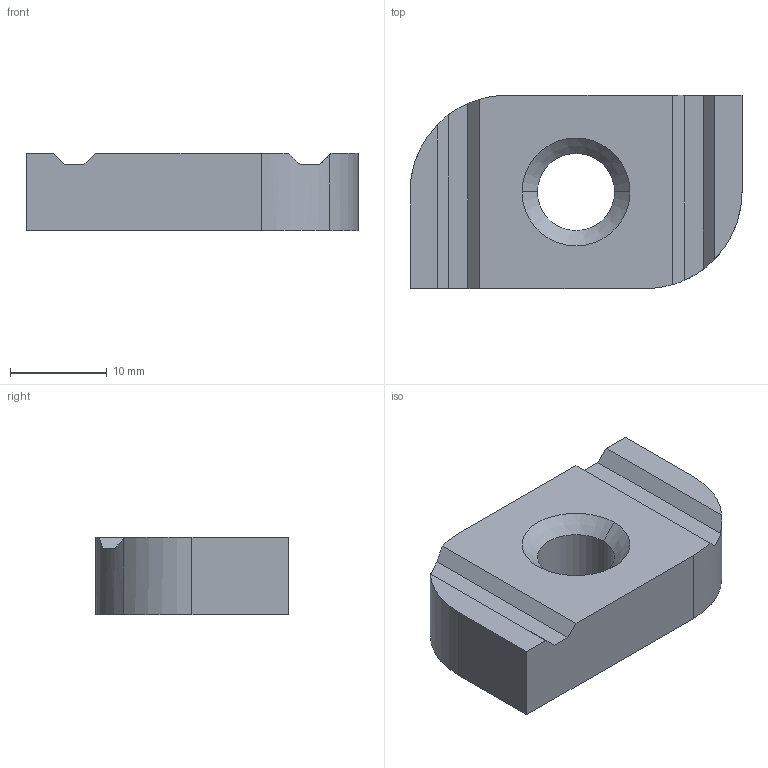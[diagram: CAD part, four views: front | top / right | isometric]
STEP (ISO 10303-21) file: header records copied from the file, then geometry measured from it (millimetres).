
FILE_DESCRIPTION(('TurboCAD Mac Pro'),'Build 980');
FILE_NAME('P3007.stp',' ',(''),(''),'ACIS Interop','IMSI','TurboCAD Mac Pro BY IMSI, INCORPORATED');
FILE_SCHEMA(('automotive_design'));
Length unit declared in the file: inch
Products named in the file (1): 1
Bounding box: 34.4 x 20 x 8 mm (x, y, z)
Volume: 4579.9 mm3; surface area: 2192.3 mm2
Topology: 1 solids, 1 shells, 22 faces, 58 edges, 38 vertices
Faces by surface type: plane 14, cylinder 6, cone 2
Entity records: 892 total; most frequent: DIRECTION 126, CARTESIAN_POINT 119, ORIENTED_EDGE 116, EDGE_CURVE 58, AXIS2_PLACEMENT_3D 45, VERTEX_POINT 38, LINE 36, VECTOR 36
